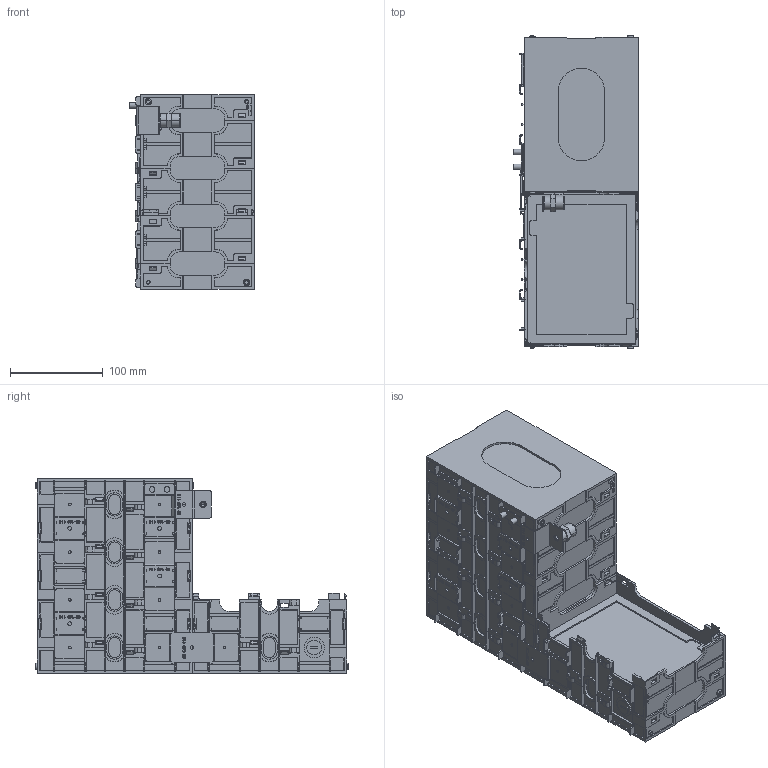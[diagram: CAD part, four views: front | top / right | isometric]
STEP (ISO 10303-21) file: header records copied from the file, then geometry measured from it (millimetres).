
FILE_DESCRIPTION(/* description */ (''),/* implementation_level */ '2;1');
FILE_NAME(/* name */ '50-160-116-产品图2022-6-17.stp',/* time_stamp */ '2022-06-17T13:45:22+08:00',/* author */ (''),/* organization */ (''),/* preprocessor_version */ 'ST-DEVELOPER v16.7',/* originating_system */ 'SIEMENS PLM Software NX 12.0',/* authorisation */ '');
FILE_SCHEMA (('AUTOMOTIVE_DESIGN { 1 0 10303 214 3 1 1 1 }'));
Products named in the file (1): 50160-116
Bounding box: 134.75 x 337 x 210.5 mm (x, y, z)
Volume: 5053640 mm3; surface area: 792305.8 mm2
Topology: 19 solids, 19 shells, 4012 faces, 11615 edges, 7707 vertices
Faces by surface type: plane 3216, cylinder 539, extrusion 120, cone 105, bspline 22, torus 10
Full cylindrical faces by diameter (mm): 3 x9, 4 x6, 6 x2, 8 x6, 16 x10, 22 x10
Entity records: 142232 total; most frequent: CARTESIAN_POINT 31319, ORIENTED_EDGE 22914, DIRECTION 20195, EDGE_CURVE 11457, VECTOR 9773, LINE 9653, VERTEX_POINT 7656, AXIS2_PLACEMENT_3D 5211
